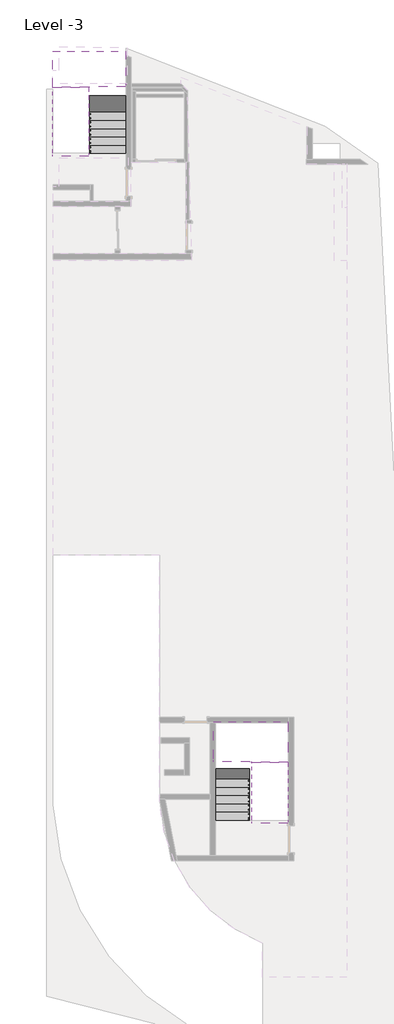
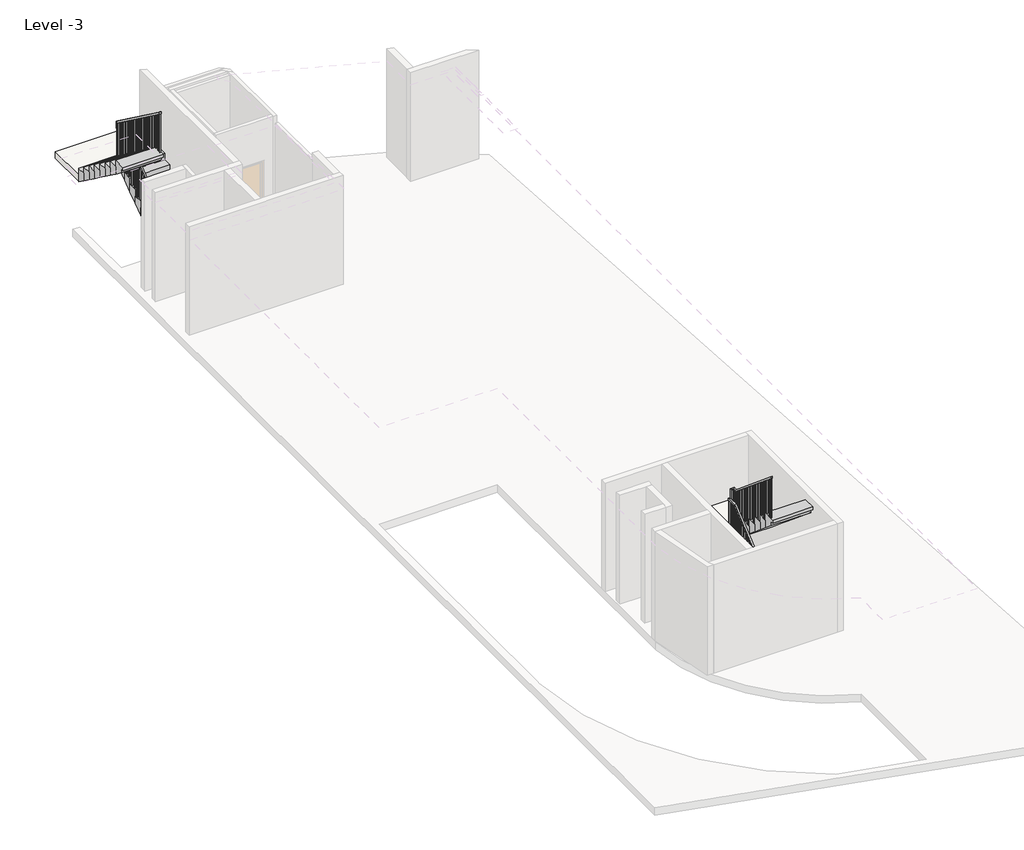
# One storey, part 2 of 2: 4 stair flights, 2 railings, 2 slabs.
"""IFC4 building model written with IfcOpenShell, lengths in millimetres."""

import ifcopenshell
import ifcopenshell.guid

model = None  # the IFC model being written
_history = None  # IfcOwnerHistory: only IFC2X3 demands one
_inside = {}  # id of a spatial element -> (the spatial element, [elements in it])
_under = {}  # id of a project, library or spatial element -> (it, [spatial elements below it])
_declared = {}  # id of a project -> (the project, [libraries it declares])
_typed = {}  # id of a type object -> (the type object, [elements of that type])
_made_of = {}  # id of a material, layer set ... -> (it, [elements and type objects made of it])


def new_model(schema):
    """Start an empty IFC model of exactly this schema.

    Asked for "IFC4X3", IfcOpenShell would pick the latest addendum, in which some entities
    have other attributes; the version numbers below select the first issue.
    IFC2X3 requires an IfcOwnerHistory on every rooted entity: one is made here for all.
    """
    global model, _history
    if schema == "IFC4X3":
        model = ifcopenshell.file(schema_version=(4, 3, 0, 0))
    else:
        model = ifcopenshell.file(schema=schema)
    _inside.clear()
    _under.clear()
    _declared.clear()
    _typed.clear()
    _made_of.clear()
    _history = None
    if model.schema == "IFC2X3":
        org = make("IfcOrganization", Name="unknown")
        user = make(
            "IfcPersonAndOrganization",
            ThePerson=make("IfcPerson", FamilyName="unknown"),
            TheOrganization=org,
        )
        app = make(
            "IfcApplication",
            ApplicationDeveloper=org,
            Version="unknown",
            ApplicationFullName="unknown",
            ApplicationIdentifier="unknown",
        )
        _history = make(
            "IfcOwnerHistory",
            OwningUser=user,
            OwningApplication=app,
            ChangeAction="ADDED",
            CreationDate=0,
        )
    return model


def make(cls, **values):
    """One entity of the class cls with the attributes given. An attribute that is None is left unset."""
    return model.create_entity(
        cls, **{name: value for name, value in values.items() if value is not None}
    )


def rooted(cls, **values):
    """An entity with a GlobalId (a new one), such as an element, a storey or a relation."""
    return make(cls, GlobalId=ifcopenshell.guid.new(), OwnerHistory=_history, **values)


def si_unit(unit_type, name, prefix=None):
    """IfcSIUnit, for example si_unit("LENGTHUNIT", "METRE", prefix="MILLI")."""
    return make("IfcSIUnit", UnitType=unit_type, Prefix=prefix, Name=name)


def assignment(units):
    """IfcUnitAssignment: the units of a project."""
    return None if units is None else make("IfcUnitAssignment", Units=units)


def point(xyz):
    """IfcCartesianPoint."""
    return None if xyz is None else make("IfcCartesianPoint", Coordinates=xyz)


def direction(xyz):
    """IfcDirection."""
    return None if xyz is None else make("IfcDirection", DirectionRatios=xyz)


def frame(location, z_axis=None, x_axis=None):
    """IfcAxis2Placement3D, a coordinate frame: its origin and axes. An axis left out is left unset."""
    return make(
        "IfcAxis2Placement3D",
        Location=point(location),
        Axis=direction(z_axis),
        RefDirection=direction(x_axis),
    )


def origin():
    """The frame at (0, 0, 0) with its axes left unset."""
    return frame((0.0, 0.0, 0.0))


def place(relative_to, where):
    """IfcLocalPlacement: puts the frame where relative to a parent placement (None: the world)."""
    return make(
        "IfcLocalPlacement", PlacementRelTo=relative_to, RelativePlacement=where
    )


def context(
    kind, dimensions, precision=None, world=None, true_north=None, identifier=None
):
    """IfcGeometricRepresentationContext, for example the 3D "Model" context."""
    return make(
        "IfcGeometricRepresentationContext",
        ContextIdentifier=identifier,
        ContextType=kind,
        CoordinateSpaceDimension=dimensions,
        Precision=precision,
        WorldCoordinateSystem=world,
        TrueNorth=true_north,
    )


def project(units=None, contexts=None):
    """IfcProject with its units and contexts."""
    return rooted(
        "IfcProject",
        Name="project",
        RepresentationContexts=contexts,
        UnitsInContext=assignment(units),
    )


def spatial(cls, under=None, at=None, **own):
    """A site, building, storey or space (cls), placed at a placement, below another one or the project."""
    s = rooted(cls, ObjectPlacement=at, **own)
    if under is not None:
        _under.setdefault(under.id(), (under, []))[1].append(s)
    return s


def polyline(points):
    """IfcPolyline through the points."""
    return make("IfcPolyline", Points=[point(p) for p in points])


def outline(outer, holes=None, kind="AREA"):
    """IfcArbitraryClosedProfileDef: a profile drawn as a closed curve; with holes, ...WithVoids."""
    if holes is None:
        return make("IfcArbitraryClosedProfileDef", ProfileType=kind, OuterCurve=outer)
    return make(
        "IfcArbitraryProfileDefWithVoids",
        ProfileType=kind,
        OuterCurve=outer,
        InnerCurves=holes,
    )


def extrude(swept, where, along, depth):
    """IfcExtrudedAreaSolid: the profile swept, set in the frame where, extruded along a direction by depth."""
    return make(
        "IfcExtrudedAreaSolid",
        SweptArea=swept,
        Position=where,
        ExtrudedDirection=direction(along),
        Depth=depth,
    )


def faces_of(points, faces, orient=None, outer=None):
    """IfcFace entities. A face is a list of loops; a loop is a list of indices into points, from 0.

    orient and outer hold one flag for each loop. By default every Orientation is true, the
    first loop of a face is its IfcFaceOuterBound and the others are IfcFaceBound.
    """
    made = []
    for i, loops in enumerate(faces):
        bounds = []
        for j, loop in enumerate(loops):
            is_outer = j == 0 if outer is None else outer[i][j]
            bounds.append(
                make(
                    "IfcFaceOuterBound" if is_outer else "IfcFaceBound",
                    Bound=make("IfcPolyLoop", Polygon=[points[k] for k in loop]),
                    Orientation=True if orient is None else orient[i][j],
                )
            )
        made.append(make("IfcFace", Bounds=bounds))
    return made


def faceted_brep(points, faces, orient=None, outer=None, voids=None):
    """IfcFacetedBrep: a solid bounded by flat faces; with voids (closed shells), ...WithVoids."""
    shared = [point(p) for p in points]
    hull = make("IfcClosedShell", CfsFaces=faces_of(shared, faces, orient, outer))
    if voids is None:
        return make("IfcFacetedBrep", Outer=hull)
    return make(
        "IfcFacetedBrepWithVoids",
        Outer=hull,
        Voids=[
            make(cls, CfsFaces=faces_of(shared, fs, o, b)) for cls, fs, o, b in voids
        ],
    )


def shape(context_of_items, identifier, shape_type, items):
    """IfcShapeRepresentation: the items that make up one representation, for example the "Body"."""
    return make(
        "IfcShapeRepresentation",
        ContextOfItems=context_of_items,
        RepresentationIdentifier=identifier,
        RepresentationType=shape_type,
        Items=items,
    )


def made_of(thing, what):
    """Note that an element or type object is made of a material, layer set ...; save() writes the relation."""
    if what is not None:
        _made_of.setdefault(what.id(), (what, []))[1].append(thing)
    return thing


def element(
    cls,
    number,
    at=None,
    inside=None,
    cuts=None,
    type_object=None,
    material=None,
    context=None,
    identifier="Body",
    shape_type=None,
    held_by="IfcProductDefinitionShape",
    body=None,
    shapes=None,
    **own,
):
    """One element of the class cls, such as IfcWall. Its Tag is "e" and its number.

    at: its placement. inside: the storey or other place that contains it. cuts: it is an
    opening in that element (IfcRelVoidsElement). A single representation is given by context,
    identifier, shape_type and body (its items); several are given by shapes. held_by: the class
    of the entity that holds the representations. save() writes the other relations.
    """
    e = rooted(cls, Tag="e%d" % number, ObjectPlacement=at, **own)
    if body is not None:
        shapes = [shape(context, identifier, shape_type, body)]
    if shapes is not None:
        e.Representation = make(held_by, Representations=shapes)
    if inside is not None:
        _inside.setdefault(inside.id(), (inside, []))[1].append(e)
    if cuts is not None:
        rooted(
            "IfcRelVoidsElement", RelatingBuildingElement=cuts, RelatedOpeningElement=e
        )
    if type_object is not None:
        _typed.setdefault(type_object.id(), (type_object, []))[1].append(e)
    return made_of(e, material)


def aggregate(whole, parts):
    """IfcRelAggregates: a whole, such as a stair, and the parts it consists of."""
    return rooted("IfcRelAggregates", RelatingObject=whole, RelatedObjects=parts)


def save(model, path):
    """Write the relations noted so far, then the file.

    IfcRelAggregates (storeys below a building ...), IfcRelContainedInSpatialStructure (elements
    in a storey), IfcRelDefinesByType, IfcRelAssociatesMaterial and IfcRelDeclares: one each for
    every whole, place, type object, material and project.
    """
    for whole, parts in _under.values():
        aggregate(whole, parts)
    for where, things in _inside.values():
        rooted(
            "IfcRelContainedInSpatialStructure",
            RelatedElements=things,
            RelatingStructure=where,
        )
    for kind, things in _typed.values():
        rooted("IfcRelDefinesByType", RelatedObjects=things, RelatingType=kind)
    for what, things in _made_of.values():
        rooted("IfcRelAssociatesMaterial", RelatedObjects=things, RelatingMaterial=what)
    for by, libraries in _declared.values():
        rooted("IfcRelDeclares", RelatingContext=by, RelatedDefinitions=libraries)
    model.write(path)


model = new_model("IFC4")

# Units and contexts
model_context = context("Model", 3, world=origin())
ifc_project = project(units=[si_unit("LENGTHUNIT", "METRE", prefix="MILLI")], contexts=[model_context])

# Site, building, storey
site = spatial("IfcSite", under=ifc_project)
building = spatial("IfcBuilding", under=site)
storey = spatial("IfcBuildingStorey", under=building, Name="Level -3", Elevation=-10500.0)

# Railings
placement = place(None, origin())
element("IfcRailing", 1, ObjectType="1100mm", at=placement, inside=storey, context=model_context, shape_type="SolidModel", body=[
    faceted_brep([(1179.9765888, 10328.8506586, -9194.1176471), (1179.9765888, 10328.8506586, -9256.1792584), (1229.9765888, 10328.8506586, -9256.1792584), (1229.9765888, 10328.8506586, -9194.1176471), (1179.9765888, 12288.8506586, -7752.9411765), (1179.9765888, 12305.25445, -7802.9411765), (1229.9765888, 12305.25445, -7802.9411765), (1229.9765888, 12288.8506586, -7752.9411765), (1179.9765888, 12569.2506586, -7752.9411765), (1179.9765888, 12569.2506586, -7802.9411765), (1229.9765888, 12619.2506586, -7802.9411765), (1229.9765888, 12619.2506586, -7752.9411765), (1159.5709975, 12569.2506586, -7752.9411765), (1159.5709975, 12619.2506586, -7752.9411765), (1109.5709975, 12619.2506586, -7802.9411765), (1109.5709975, 12569.2506586, -7802.9411765)], [[[0, 1, 2, 3]], [[1, 0, 4, 5]], [[2, 1, 5, 6]], [[3, 2, 6, 7]], [[0, 3, 7, 4]], [[5, 4, 8, 9]], [[6, 5, 9, 10]], [[7, 6, 10, 11]], [[4, 7, 11, 8]], [[12, 13, 14, 15]], [[9, 8, 12, 15]], [[10, 9, 15, 14]], [[11, 10, 14, 13]], [[8, 11, 13, 12]]]),
    faceted_brep([(1159.5709975, 12569.2506586, -7752.9411765), (1109.5709975, 12569.2506586, -7802.9411765), (1109.5709975, 12619.2506586, -7802.9411765), (1159.5709975, 12619.2506586, -7752.9411765), (1159.5709975, 12569.2506586, -7609.4145525), (1159.5709975, 12619.2506586, -7584.1176471), (1109.5709975, 12619.2506586, -7584.1176471), (1109.5709975, 12569.2506586, -7609.4145525)], [[[0, 1, 2, 3]], [[4, 5, 6, 7]], [[1, 0, 4, 7]], [[2, 1, 7, 6]], [[3, 2, 6, 5]], [[0, 3, 5, 4]]]),
    faceted_brep([(1159.5709975, 12619.2506586, -7584.1176471), (1159.5709975, 12569.2506586, -7609.4145525), (1109.5709975, 12569.2506586, -7609.4145525), (1109.5709975, 12619.2506586, -7584.1176471), (1159.5709975, 10328.8506586, -5900.0), (1109.5709975, 10328.8506586, -5900.0), (1109.5709975, 10328.8506586, -5962.0616113), (1159.5709975, 10328.8506586, -5962.0616113)], [[[0, 1, 2, 3]], [[4, 5, 6, 7]], [[1, 0, 4, 7]], [[2, 1, 7, 6]], [[3, 2, 6, 5]], [[0, 3, 5, 4]]]),
    extrude(outline(polyline([(10436.7506586, -7205.8823529), (10411.7506586, -7205.8823529), (10411.7506586, -6023.0174937), (10436.7506586, -6041.3998466), (10436.7506586, -7205.8823529)])), frame((1122.0709975, 0.0, 0.0), z_axis=(1.0, 0.0, 0.0), x_axis=(0.0, 1.0, 0.0)), (0.0, 0.0, 1.0), 25.0),
    extrude(outline(polyline([(10576.7506586, -7205.8823529), (10551.7506586, -7205.8823529), (10551.7506586, -6125.9586701), (10576.7506586, -6144.3410231), (10576.7506586, -7205.8823529)])), frame((1122.0709975, 0.0, 0.0), z_axis=(1.0, 0.0, 0.0), x_axis=(0.0, 1.0, 0.0)), (0.0, 0.0, 1.0), 25.0),
    extrude(outline(polyline([(10716.7506586, -7411.7647059), (10691.7506586, -7411.7647059), (10691.7506586, -6228.8998466), (10716.7506586, -6247.2821995), (10716.7506586, -7411.7647059)])), frame((1122.0709975, 0.0, 0.0), z_axis=(1.0, 0.0, 0.0), x_axis=(0.0, 1.0, 0.0)), (0.0, 0.0, 1.0), 25.0),
    extrude(outline(polyline([(10856.7506586, -7411.7647059), (10831.7506586, -7411.7647059), (10831.7506586, -6331.8410231), (10856.7506586, -6350.223376), (10856.7506586, -7411.7647059)])), frame((1122.0709975, 0.0, 0.0), z_axis=(1.0, 0.0, 0.0), x_axis=(0.0, 1.0, 0.0)), (0.0, 0.0, 1.0), 25.0),
    extrude(outline(polyline([(10996.7506586, -7617.6470588), (10971.7506586, -7617.6470588), (10971.7506586, -6434.7821995), (10996.7506586, -6453.1645525), (10996.7506586, -7617.6470588)])), frame((1122.0709975, 0.0, 0.0), z_axis=(1.0, 0.0, 0.0), x_axis=(0.0, 1.0, 0.0)), (0.0, 0.0, 1.0), 25.0),
    extrude(outline(polyline([(11136.7506586, -7617.6470588), (11111.7506586, -7617.6470588), (11111.7506586, -6537.723376), (11136.7506586, -6556.105729), (11136.7506586, -7617.6470588)])), frame((1122.0709975, 0.0, 0.0), z_axis=(1.0, 0.0, 0.0), x_axis=(0.0, 1.0, 0.0)), (0.0, 0.0, 1.0), 25.0),
    extrude(outline(polyline([(11276.7506586, -7823.5294118), (11251.7506586, -7823.5294118), (11251.7506586, -6640.6645525), (11276.7506586, -6659.0469054), (11276.7506586, -7823.5294118)])), frame((1122.0709975, 0.0, 0.0), z_axis=(1.0, 0.0, 0.0), x_axis=(0.0, 1.0, 0.0)), (0.0, 0.0, 1.0), 25.0),
    extrude(outline(polyline([(11416.7506586, -7823.5294118), (11391.7506586, -7823.5294118), (11391.7506586, -6743.605729), (11416.7506586, -6761.9880819), (11416.7506586, -7823.5294118)])), frame((1122.0709975, 0.0, 0.0), z_axis=(1.0, 0.0, 0.0), x_axis=(0.0, 1.0, 0.0)), (0.0, 0.0, 1.0), 25.0),
    extrude(outline(polyline([(11556.7506586, -8029.4117647), (11531.7506586, -8029.4117647), (11531.7506586, -6846.5469054), (11556.7506586, -6864.9292584), (11556.7506586, -8029.4117647)])), frame((1122.0709975, 0.0, 0.0), z_axis=(1.0, 0.0, 0.0), x_axis=(0.0, 1.0, 0.0)), (0.0, 0.0, 1.0), 25.0),
    extrude(outline(polyline([(11696.7506586, -8029.4117647), (11671.7506586, -8029.4117647), (11671.7506586, -6949.4880819), (11696.7506586, -6967.8704348), (11696.7506586, -8029.4117647)])), frame((1122.0709975, 0.0, 0.0), z_axis=(1.0, 0.0, 0.0), x_axis=(0.0, 1.0, 0.0)), (0.0, 0.0, 1.0), 25.0),
    extrude(outline(polyline([(11836.7506586, -8235.2941176), (11811.7506586, -8235.2941176), (11811.7506586, -7052.4292584), (11836.7506586, -7070.8116113), (11836.7506586, -8235.2941176)])), frame((1122.0709975, 0.0, 0.0), z_axis=(1.0, 0.0, 0.0), x_axis=(0.0, 1.0, 0.0)), (0.0, 0.0, 1.0), 25.0),
    extrude(outline(polyline([(11976.7506586, -8235.2941176), (11951.7506586, -8235.2941176), (11951.7506586, -7155.3704348), (11976.7506586, -7173.7527878), (11976.7506586, -8235.2941176)])), frame((1122.0709975, 0.0, 0.0), z_axis=(1.0, 0.0, 0.0), x_axis=(0.0, 1.0, 0.0)), (0.0, 0.0, 1.0), 25.0),
    extrude(outline(polyline([(12116.7506586, -8441.1764706), (12091.7506586, -8441.1764706), (12091.7506586, -7258.3116113), (12116.7506586, -7276.6939643), (12116.7506586, -8441.1764706)])), frame((1122.0709975, 0.0, 0.0), z_axis=(1.0, 0.0, 0.0), x_axis=(0.0, 1.0, 0.0)), (0.0, 0.0, 1.0), 25.0),
    extrude(outline(polyline([(12256.7506586, -8441.1764706), (12231.7506586, -8441.1764706), (12231.7506586, -7361.2527878), (12256.7506586, -7379.6351407), (12256.7506586, -8441.1764706)])), frame((1122.0709975, 0.0, 0.0), z_axis=(1.0, 0.0, 0.0), x_axis=(0.0, 1.0, 0.0)), (0.0, 0.0, 1.0), 25.0),
    extrude(outline(polyline([(12396.7506586, -8647.0588235), (12371.7506586, -8647.0588235), (12371.7506586, -7464.1939643), (12396.7506586, -7482.5763172), (12396.7506586, -8647.0588235)])), frame((1122.0709975, 0.0, 0.0), z_axis=(1.0, 0.0, 0.0), x_axis=(0.0, 1.0, 0.0)), (0.0, 0.0, 1.0), 25.0),
    extrude(outline(polyline([(12536.7506586, -8647.0588235), (12511.7506586, -8647.0588235), (12511.7506586, -7567.1351407), (12536.7506586, -7585.5174937), (12536.7506586, -8647.0588235)])), frame((1122.0709975, 0.0, 0.0), z_axis=(1.0, 0.0, 0.0), x_axis=(0.0, 1.0, 0.0)), (0.0, 0.0, 1.0), 25.0),
    extrude(outline(polyline([(1147.4765888, 12581.7506586), (1122.4765888, 12581.7506586), (1122.4765888, 12606.7506586), (1147.4765888, 12606.7506586), (1147.4765888, 12581.7506586)])), frame((0.0, 0.0, -8852.9411765), z_axis=(0.0, 0.0, 1.0), x_axis=(1.0, 0.0, 0.0)), (0.0, 0.0, 1.0), 1050.0),
    extrude(outline(polyline([(1192.4765888, 12486.3506586), (1192.4765888, 12511.3506586), (1217.4765888, 12511.3506586), (1217.4765888, 12486.3506586), (1192.4765888, 12486.3506586)])), frame((0.0, 0.0, -8852.9411765), z_axis=(0.0, 0.0, 1.0), x_axis=(1.0, 0.0, 0.0)), (0.0, 0.0, 1.0), 1050.0),
    extrude(outline(polyline([(1192.4765888, 12346.3506586), (1192.4765888, 12371.3506586), (1217.4765888, 12371.3506586), (1217.4765888, 12346.3506586), (1192.4765888, 12346.3506586)])), frame((0.0, 0.0, -8852.9411765), z_axis=(0.0, 0.0, 1.0), x_axis=(1.0, 0.0, 0.0)), (0.0, 0.0, 1.0), 1050.0),
    extrude(outline(polyline([(12206.3506586, -7875.6645525), (12231.3506586, -7857.2821995), (12231.3506586, -9058.8235294), (12206.3506586, -9058.8235294), (12206.3506586, -7875.6645525)])), frame((1192.4765888, 0.0, 0.0), z_axis=(1.0, 0.0, 0.0), x_axis=(0.0, 1.0, 0.0)), (0.0, 0.0, 1.0), 25.0),
    extrude(outline(polyline([(12066.3506586, -7978.605729), (12091.3506586, -7960.223376), (12091.3506586, -9058.8235294), (12066.3506586, -9058.8235294), (12066.3506586, -7978.605729)])), frame((1192.4765888, 0.0, 0.0), z_axis=(1.0, 0.0, 0.0), x_axis=(0.0, 1.0, 0.0)), (0.0, 0.0, 1.0), 25.0),
    extrude(outline(polyline([(11926.3506586, -8081.5469054), (11951.3506586, -8063.1645525), (11951.3506586, -9264.7058824), (11926.3506586, -9264.7058824), (11926.3506586, -8081.5469054)])), frame((1192.4765888, 0.0, 0.0), z_axis=(1.0, 0.0, 0.0), x_axis=(0.0, 1.0, 0.0)), (0.0, 0.0, 1.0), 25.0),
    extrude(outline(polyline([(11786.3506586, -8184.4880819), (11811.3506586, -8166.105729), (11811.3506586, -9264.7058824), (11786.3506586, -9264.7058824), (11786.3506586, -8184.4880819)])), frame((1192.4765888, 0.0, 0.0), z_axis=(1.0, 0.0, 0.0), x_axis=(0.0, 1.0, 0.0)), (0.0, 0.0, 1.0), 25.0),
    extrude(outline(polyline([(11646.3506586, -8287.4292584), (11671.3506586, -8269.0469054), (11671.3506586, -9470.5882353), (11646.3506586, -9470.5882353), (11646.3506586, -8287.4292584)])), frame((1192.4765888, 0.0, 0.0), z_axis=(1.0, 0.0, 0.0), x_axis=(0.0, 1.0, 0.0)), (0.0, 0.0, 1.0), 25.0),
    extrude(outline(polyline([(11506.3506586, -8390.3704348), (11531.3506586, -8371.9880819), (11531.3506586, -9470.5882353), (11506.3506586, -9470.5882353), (11506.3506586, -8390.3704348)])), frame((1192.4765888, 0.0, 0.0), z_axis=(1.0, 0.0, 0.0), x_axis=(0.0, 1.0, 0.0)), (0.0, 0.0, 1.0), 25.0),
    extrude(outline(polyline([(11366.3506586, -8493.3116113), (11391.3506586, -8474.9292584), (11391.3506586, -9676.4705882), (11366.3506586, -9676.4705882), (11366.3506586, -8493.3116113)])), frame((1192.4765888, 0.0, 0.0), z_axis=(1.0, 0.0, 0.0), x_axis=(0.0, 1.0, 0.0)), (0.0, 0.0, 1.0), 25.0),
    extrude(outline(polyline([(11226.3506586, -8596.2527878), (11251.3506586, -8577.8704348), (11251.3506586, -9676.4705882), (11226.3506586, -9676.4705882), (11226.3506586, -8596.2527878)])), frame((1192.4765888, 0.0, 0.0), z_axis=(1.0, 0.0, 0.0), x_axis=(0.0, 1.0, 0.0)), (0.0, 0.0, 1.0), 25.0),
    extrude(outline(polyline([(11086.3506586, -8699.1939643), (11111.3506586, -8680.8116113), (11111.3506586, -9882.3529412), (11086.3506586, -9882.3529412), (11086.3506586, -8699.1939643)])), frame((1192.4765888, 0.0, 0.0), z_axis=(1.0, 0.0, 0.0), x_axis=(0.0, 1.0, 0.0)), (0.0, 0.0, 1.0), 25.0),
    extrude(outline(polyline([(10946.3506586, -8802.1351407), (10971.3506586, -8783.7527878), (10971.3506586, -9882.3529412), (10946.3506586, -9882.3529412), (10946.3506586, -8802.1351407)])), frame((1192.4765888, 0.0, 0.0), z_axis=(1.0, 0.0, 0.0), x_axis=(0.0, 1.0, 0.0)), (0.0, 0.0, 1.0), 25.0),
    extrude(outline(polyline([(10806.3506586, -8905.0763172), (10831.3506586, -8886.6939643), (10831.3506586, -10088.2352941), (10806.3506586, -10088.2352941), (10806.3506586, -8905.0763172)])), frame((1192.4765888, 0.0, 0.0), z_axis=(1.0, 0.0, 0.0), x_axis=(0.0, 1.0, 0.0)), (0.0, 0.0, 1.0), 25.0),
    extrude(outline(polyline([(10666.3506586, -9008.0174937), (10691.3506586, -8989.6351407), (10691.3506586, -10088.2352941), (10666.3506586, -10088.2352941), (10666.3506586, -9008.0174937)])), frame((1192.4765888, 0.0, 0.0), z_axis=(1.0, 0.0, 0.0), x_axis=(0.0, 1.0, 0.0)), (0.0, 0.0, 1.0), 25.0),
    extrude(outline(polyline([(10526.3506586, -9110.9586701), (10551.3506586, -9092.5763172), (10551.3506586, -10294.1176471), (10526.3506586, -10294.1176471), (10526.3506586, -9110.9586701)])), frame((1192.4765888, 0.0, 0.0), z_axis=(1.0, 0.0, 0.0), x_axis=(0.0, 1.0, 0.0)), (0.0, 0.0, 1.0), 25.0),
    extrude(outline(polyline([(10386.3506586, -9213.8998466), (10411.3506586, -9195.5174937), (10411.3506586, -10294.1176471), (10386.3506586, -10294.1176471), (10386.3506586, -9213.8998466)])), frame((1192.4765888, 0.0, 0.0), z_axis=(1.0, 0.0, 0.0), x_axis=(0.0, 1.0, 0.0)), (0.0, 0.0, 1.0), 25.0),
    extrude(outline(polyline([(1147.0709975, 12606.7506586), (1147.0709975, 12581.7506586), (1122.0709975, 12581.7506586), (1122.0709975, 12606.7506586), (1147.0709975, 12606.7506586)])), frame((0.0, 0.0, -8852.9411765), z_axis=(0.0, 0.0, 1.0), x_axis=(1.0, 0.0, 0.0)), (0.0, 0.0, 1.0), 1050.0),
    extrude(outline(polyline([(1192.4765888, 12581.7506586), (1192.4765888, 12606.7506586), (1217.4765888, 12606.7506586), (1217.4765888, 12581.7506586), (1192.4765888, 12581.7506586)])), frame((0.0, 0.0, -8852.9411765), z_axis=(0.0, 0.0, 1.0), x_axis=(1.0, 0.0, 0.0)), (0.0, 0.0, 1.0), 1050.0),
    extrude(outline(polyline([(12276.3506586, -7824.1939643), (12301.3506586, -7805.8116113), (12301.3506586, -8852.9411765), (12276.3506586, -8852.9411765), (12276.3506586, -7824.1939643)])), frame((1192.4765888, 0.0, 0.0), z_axis=(1.0, 0.0, 0.0), x_axis=(0.0, 1.0, 0.0)), (0.0, 0.0, 1.0), 25.0),
    extrude(outline(polyline([(10353.8506586, -7205.8823529), (10328.8506586, -7205.8823529), (10328.8506586, -5962.0616113), (10353.8506586, -5980.4439643), (10353.8506586, -7205.8823529)])), frame((1122.0709975, 0.0, 0.0), z_axis=(1.0, 0.0, 0.0), x_axis=(0.0, 1.0, 0.0)), (0.0, 0.0, 1.0), 25.0),
    extrude(outline(polyline([(10328.8506586, -9256.1792584), (10353.8506586, -9237.7969054), (10353.8506586, -10294.1176471), (10328.8506586, -10294.1176471), (10328.8506586, -9256.1792584)])), frame((1192.4765888, 0.0, 0.0), z_axis=(1.0, 0.0, 0.0), x_axis=(0.0, 1.0, 0.0)), (0.0, 0.0, 1.0), 25.0),
])
element("IfcRailing", 2, ObjectType="1100mm", at=placement, inside=storey, context=model_context, shape_type="SolidModel", body=[
    faceted_brep([(6559.5709976, -12235.6929429, -9166.6666667), (6559.5709976, -12235.6929429, -9231.7520806), (6609.5709976, -12235.6929429, -9231.7520806), (6609.5709976, -12235.6929429, -9166.6666667), (6559.5709976, -10555.6929429, -7766.6666667), (6559.5709976, -10537.5904462, -7816.6666667), (6609.5709976, -10537.5904462, -7816.6666667), (6609.5709976, -10555.6929429, -7766.6666667), (6559.5709976, -10225.2929429, -7766.6666667), (6559.5709976, -10225.2929429, -7816.6666667), (6609.5709976, -10275.2929429, -7816.6666667), (6609.5709976, -10275.2929429, -7766.6666667), (6615.3709976, -10225.2929429, -7766.6666667), (6665.3709976, -10225.2929429, -7816.6666667), (6665.3709976, -10275.2929429, -7816.6666667), (6615.3709976, -10275.2929429, -7766.6666667), (6615.3709976, -10225.2929429, -7471.1666667), (6665.3709976, -10225.2929429, -7521.1666667), (6665.3709976, -10275.2929429, -7521.1666667), (6615.3709976, -10275.2929429, -7471.1666667), (6740.3709976, -10225.2929429, -7471.1666667), (6740.3709976, -10225.2929429, -7521.1666667), (6690.3709976, -10275.2929429, -7521.1666667), (6690.3709976, -10275.2929429, -7471.1666667), (6740.3709976, -10350.2929429, -7471.1666667), (6740.3709976, -10368.3954397, -7521.1666667), (6690.3709976, -10368.3954397, -7521.1666667), (6690.3709976, -10350.2929429, -7471.1666667), (6740.3709976, -12235.6929429, -5900.0), (6690.3709976, -12235.6929429, -5900.0), (6690.3709976, -12235.6929429, -5965.085414), (6740.3709976, -12235.6929429, -5965.085414)], [[[0, 1, 2, 3]], [[1, 0, 4, 5]], [[2, 1, 5, 6]], [[3, 2, 6, 7]], [[0, 3, 7, 4]], [[5, 4, 8, 9]], [[6, 5, 9, 10]], [[7, 6, 10, 11]], [[4, 7, 11, 8]], [[9, 8, 12, 13]], [[10, 9, 13, 14]], [[11, 10, 14, 15]], [[8, 11, 15, 12]], [[13, 12, 16, 17]], [[14, 13, 17, 18]], [[15, 14, 18, 19]], [[12, 15, 19, 16]], [[17, 16, 20, 21]], [[18, 17, 21, 22]], [[19, 18, 22, 23]], [[16, 19, 23, 20]], [[21, 20, 24, 25]], [[22, 21, 25, 26]], [[23, 22, 26, 27]], [[20, 23, 27, 24]], [[28, 29, 30, 31]], [[25, 24, 28, 31]], [[26, 25, 31, 30]], [[27, 26, 30, 29]], [[24, 27, 29, 28]]]),
    extrude(outline(polyline([(-12127.7929429, -6055.0020806), (-12127.7929429, -7233.3333333), (-12152.7929429, -7233.3333333), (-12152.7929429, -6034.1687473), (-12127.7929429, -6055.0020806)])), frame((6702.8709976, 0.0, 0.0), z_axis=(1.0, 0.0, 0.0), x_axis=(0.0, 1.0, 0.0)), (0.0, 0.0, 1.0), 25.0),
    extrude(outline(polyline([(-11987.7929429, -6171.6687473), (-11987.7929429, -7233.3333333), (-12012.7929429, -7233.3333333), (-12012.7929429, -6150.835414), (-11987.7929429, -6171.6687473)])), frame((6702.8709976, 0.0, 0.0), z_axis=(1.0, 0.0, 0.0), x_axis=(0.0, 1.0, 0.0)), (0.0, 0.0, 1.0), 25.0),
    extrude(outline(polyline([(-11847.7929429, -6288.335414), (-11847.7929429, -7466.6666667), (-11872.7929429, -7466.6666667), (-11872.7929429, -6267.5020806), (-11847.7929429, -6288.335414)])), frame((6702.8709976, 0.0, 0.0), z_axis=(1.0, 0.0, 0.0), x_axis=(0.0, 1.0, 0.0)), (0.0, 0.0, 1.0), 25.0),
    extrude(outline(polyline([(-11707.7929429, -6405.0020806), (-11707.7929429, -7466.6666667), (-11732.7929429, -7466.6666667), (-11732.7929429, -6384.1687473), (-11707.7929429, -6405.0020806)])), frame((6702.8709976, 0.0, 0.0), z_axis=(1.0, 0.0, 0.0), x_axis=(0.0, 1.0, 0.0)), (0.0, 0.0, 1.0), 25.0),
    extrude(outline(polyline([(-11567.7929429, -6521.6687473), (-11567.7929429, -7700.0), (-11592.7929429, -7700.0), (-11592.7929429, -6500.835414), (-11567.7929429, -6521.6687473)])), frame((6702.8709976, 0.0, 0.0), z_axis=(1.0, 0.0, 0.0), x_axis=(0.0, 1.0, 0.0)), (0.0, 0.0, 1.0), 25.0),
    extrude(outline(polyline([(-11427.7929429, -6638.335414), (-11427.7929429, -7700.0), (-11452.7929429, -7700.0), (-11452.7929429, -6617.5020806), (-11427.7929429, -6638.335414)])), frame((6702.8709976, 0.0, 0.0), z_axis=(1.0, 0.0, 0.0), x_axis=(0.0, 1.0, 0.0)), (0.0, 0.0, 1.0), 25.0),
    extrude(outline(polyline([(-11287.7929429, -6755.0020806), (-11287.7929429, -7933.3333333), (-11312.7929429, -7933.3333333), (-11312.7929429, -6734.1687473), (-11287.7929429, -6755.0020806)])), frame((6702.8709976, 0.0, 0.0), z_axis=(1.0, 0.0, 0.0), x_axis=(0.0, 1.0, 0.0)), (0.0, 0.0, 1.0), 25.0),
    extrude(outline(polyline([(-11147.7929429, -6871.6687473), (-11147.7929429, -7933.3333333), (-11172.7929429, -7933.3333333), (-11172.7929429, -6850.835414), (-11147.7929429, -6871.6687473)])), frame((6702.8709976, 0.0, 0.0), z_axis=(1.0, 0.0, 0.0), x_axis=(0.0, 1.0, 0.0)), (0.0, 0.0, 1.0), 25.0),
    extrude(outline(polyline([(-11007.7929429, -6988.335414), (-11007.7929429, -8166.6666667), (-11032.7929429, -8166.6666667), (-11032.7929429, -6967.5020806), (-11007.7929429, -6988.335414)])), frame((6702.8709976, 0.0, 0.0), z_axis=(1.0, 0.0, 0.0), x_axis=(0.0, 1.0, 0.0)), (0.0, 0.0, 1.0), 25.0),
    extrude(outline(polyline([(-10867.7929429, -7105.0020806), (-10867.7929429, -8166.6666667), (-10892.7929429, -8166.6666667), (-10892.7929429, -7084.1687473), (-10867.7929429, -7105.0020806)])), frame((6702.8709976, 0.0, 0.0), z_axis=(1.0, 0.0, 0.0), x_axis=(0.0, 1.0, 0.0)), (0.0, 0.0, 1.0), 25.0),
    extrude(outline(polyline([(-10727.7929429, -7221.6687473), (-10727.7929429, -8400.0), (-10752.7929429, -8400.0), (-10752.7929429, -7200.835414), (-10727.7929429, -7221.6687473)])), frame((6702.8709976, 0.0, 0.0), z_axis=(1.0, 0.0, 0.0), x_axis=(0.0, 1.0, 0.0)), (0.0, 0.0, 1.0), 25.0),
    extrude(outline(polyline([(-10587.7929429, -7338.335414), (-10587.7929429, -8400.0), (-10612.7929429, -8400.0), (-10612.7929429, -7317.5020806), (-10587.7929429, -7338.335414)])), frame((6702.8709976, 0.0, 0.0), z_axis=(1.0, 0.0, 0.0), x_axis=(0.0, 1.0, 0.0)), (0.0, 0.0, 1.0), 25.0),
    extrude(outline(polyline([(-10447.7929429, -7455.0020806), (-10447.7929429, -8633.3333333), (-10472.7929429, -8633.3333333), (-10472.7929429, -7434.1687473), (-10447.7929429, -7455.0020806)])), frame((6702.8709976, 0.0, 0.0), z_axis=(1.0, 0.0, 0.0), x_axis=(0.0, 1.0, 0.0)), (0.0, 0.0, 1.0), 25.0),
    extrude(outline(polyline([(6702.8709976, -10307.7929429), (6727.8709976, -10307.7929429), (6727.8709976, -10332.7929429), (6702.8709976, -10332.7929429), (6702.8709976, -10307.7929429)])), frame((0.0, 0.0, -8633.3333333), z_axis=(0.0, 0.0, 1.0), x_axis=(1.0, 0.0, 0.0)), (0.0, 0.0, 1.0), 1112.1666667),
    extrude(outline(polyline([(6642.0709976, -10262.7929429), (6642.0709976, -10237.7929429), (6667.0709976, -10237.7929429), (6667.0709976, -10262.7929429), (6642.0709976, -10262.7929429)])), frame((0.0, 0.0, -8866.6666667), z_axis=(0.0, 0.0, 1.0), x_axis=(1.0, 0.0, 0.0)), (0.0, 0.0, 1.0), 1050.0),
    extrude(outline(polyline([(6597.0709976, -10358.1929429), (6572.0709976, -10358.1929429), (6572.0709976, -10333.1929429), (6597.0709976, -10333.1929429), (6597.0709976, -10358.1929429)])), frame((0.0, 0.0, -8866.6666667), z_axis=(0.0, 0.0, 1.0), x_axis=(1.0, 0.0, 0.0)), (0.0, 0.0, 1.0), 1050.0),
    extrude(outline(polyline([(6597.0709976, -10498.1929429), (6572.0709976, -10498.1929429), (6572.0709976, -10473.1929429), (6597.0709976, -10473.1929429), (6597.0709976, -10498.1929429)])), frame((0.0, 0.0, -8866.6666667), z_axis=(0.0, 0.0, 1.0), x_axis=(1.0, 0.0, 0.0)), (0.0, 0.0, 1.0), 1050.0),
    extrude(outline(polyline([(-10638.1929429, -9100.0), (-10638.1929429, -7900.5020806), (-10613.1929429, -7879.6687473), (-10613.1929429, -9100.0), (-10638.1929429, -9100.0)])), frame((6572.0709976, 0.0, 0.0), z_axis=(1.0, 0.0, 0.0), x_axis=(0.0, 1.0, 0.0)), (0.0, 0.0, 1.0), 25.0),
    extrude(outline(polyline([(-10778.1929429, -9100.0), (-10778.1929429, -8017.1687473), (-10753.1929429, -7996.335414), (-10753.1929429, -9100.0), (-10778.1929429, -9100.0)])), frame((6572.0709976, 0.0, 0.0), z_axis=(1.0, 0.0, 0.0), x_axis=(0.0, 1.0, 0.0)), (0.0, 0.0, 1.0), 25.0),
    extrude(outline(polyline([(-10918.1929429, -9333.3333333), (-10918.1929429, -8133.835414), (-10893.1929429, -8113.0020806), (-10893.1929429, -9333.3333333), (-10918.1929429, -9333.3333333)])), frame((6572.0709976, 0.0, 0.0), z_axis=(1.0, 0.0, 0.0), x_axis=(0.0, 1.0, 0.0)), (0.0, 0.0, 1.0), 25.0),
    extrude(outline(polyline([(-11058.1929429, -9333.3333333), (-11058.1929429, -8250.5020806), (-11033.1929429, -8229.6687473), (-11033.1929429, -9333.3333333), (-11058.1929429, -9333.3333333)])), frame((6572.0709976, 0.0, 0.0), z_axis=(1.0, 0.0, 0.0), x_axis=(0.0, 1.0, 0.0)), (0.0, 0.0, 1.0), 25.0),
    extrude(outline(polyline([(-11198.1929429, -9566.6666667), (-11198.1929429, -8367.1687473), (-11173.1929429, -8346.335414), (-11173.1929429, -9566.6666667), (-11198.1929429, -9566.6666667)])), frame((6572.0709976, 0.0, 0.0), z_axis=(1.0, 0.0, 0.0), x_axis=(0.0, 1.0, 0.0)), (0.0, 0.0, 1.0), 25.0),
    extrude(outline(polyline([(-11338.1929429, -9566.6666667), (-11338.1929429, -8483.835414), (-11313.1929429, -8463.0020806), (-11313.1929429, -9566.6666667), (-11338.1929429, -9566.6666667)])), frame((6572.0709976, 0.0, 0.0), z_axis=(1.0, 0.0, 0.0), x_axis=(0.0, 1.0, 0.0)), (0.0, 0.0, 1.0), 25.0),
    extrude(outline(polyline([(-11478.1929429, -9800.0), (-11478.1929429, -8600.5020806), (-11453.1929429, -8579.6687473), (-11453.1929429, -9800.0), (-11478.1929429, -9800.0)])), frame((6572.0709976, 0.0, 0.0), z_axis=(1.0, 0.0, 0.0), x_axis=(0.0, 1.0, 0.0)), (0.0, 0.0, 1.0), 25.0),
    extrude(outline(polyline([(-11618.1929429, -9800.0), (-11618.1929429, -8717.1687473), (-11593.1929429, -8696.335414), (-11593.1929429, -9800.0), (-11618.1929429, -9800.0)])), frame((6572.0709976, 0.0, 0.0), z_axis=(1.0, 0.0, 0.0), x_axis=(0.0, 1.0, 0.0)), (0.0, 0.0, 1.0), 25.0),
    extrude(outline(polyline([(-11758.1929429, -10033.3333333), (-11758.1929429, -8833.835414), (-11733.1929429, -8813.0020806), (-11733.1929429, -10033.3333333), (-11758.1929429, -10033.3333333)])), frame((6572.0709976, 0.0, 0.0), z_axis=(1.0, 0.0, 0.0), x_axis=(0.0, 1.0, 0.0)), (0.0, 0.0, 1.0), 25.0),
    extrude(outline(polyline([(-11898.1929429, -10033.3333333), (-11898.1929429, -8950.5020806), (-11873.1929429, -8929.6687473), (-11873.1929429, -10033.3333333), (-11898.1929429, -10033.3333333)])), frame((6572.0709976, 0.0, 0.0), z_axis=(1.0, 0.0, 0.0), x_axis=(0.0, 1.0, 0.0)), (0.0, 0.0, 1.0), 25.0),
    extrude(outline(polyline([(-12038.1929429, -10266.6666667), (-12038.1929429, -9067.1687473), (-12013.1929429, -9046.335414), (-12013.1929429, -10266.6666667), (-12038.1929429, -10266.6666667)])), frame((6572.0709976, 0.0, 0.0), z_axis=(1.0, 0.0, 0.0), x_axis=(0.0, 1.0, 0.0)), (0.0, 0.0, 1.0), 25.0),
    extrude(outline(polyline([(-12178.1929429, -10266.6666667), (-12178.1929429, -9183.835414), (-12153.1929429, -9163.0020806), (-12153.1929429, -10266.6666667), (-12178.1929429, -10266.6666667)])), frame((6572.0709976, 0.0, 0.0), z_axis=(1.0, 0.0, 0.0), x_axis=(0.0, 1.0, 0.0)), (0.0, 0.0, 1.0), 25.0),
    extrude(outline(polyline([(6702.8709976, -10237.7929429), (6727.8709976, -10237.7929429), (6727.8709976, -10262.7929429), (6702.8709976, -10262.7929429), (6702.8709976, -10237.7929429)])), frame((0.0, 0.0, -8866.6666667), z_axis=(0.0, 0.0, 1.0), x_axis=(1.0, 0.0, 0.0)), (0.0, 0.0, 1.0), 1345.5),
    extrude(outline(polyline([(6597.0709976, -10262.7929429), (6572.0709976, -10262.7929429), (6572.0709976, -10237.7929429), (6597.0709976, -10237.7929429), (6597.0709976, -10262.7929429)])), frame((0.0, 0.0, -8866.6666667), z_axis=(0.0, 0.0, 1.0), x_axis=(1.0, 0.0, 0.0)), (0.0, 0.0, 1.0), 1050.0),
    extrude(outline(polyline([(-10568.1929429, -8866.6666667), (-10568.1929429, -7842.1687473), (-10543.1929429, -7821.335414), (-10543.1929429, -8866.6666667), (-10568.1929429, -8866.6666667)])), frame((6572.0709976, 0.0, 0.0), z_axis=(1.0, 0.0, 0.0), x_axis=(0.0, 1.0, 0.0)), (0.0, 0.0, 1.0), 25.0),
    extrude(outline(polyline([(-12210.6929429, -5985.9187473), (-12210.6929429, -7233.3333333), (-12235.6929429, -7233.3333333), (-12235.6929429, -5965.085414), (-12210.6929429, -5985.9187473)])), frame((6702.8709976, 0.0, 0.0), z_axis=(1.0, 0.0, 0.0), x_axis=(0.0, 1.0, 0.0)), (0.0, 0.0, 1.0), 25.0),
    extrude(outline(polyline([(-12235.6929429, -10266.6666667), (-12235.6929429, -9231.7520806), (-12210.6929429, -9210.9187473), (-12210.6929429, -10266.6666667), (-12235.6929429, -10266.6666667)])), frame((6572.0709976, 0.0, 0.0), z_axis=(1.0, 0.0, 0.0), x_axis=(0.0, 1.0, 0.0)), (0.0, 0.0, 1.0), 25.0),
])

# Slabs
element("IfcSlab", 3, ObjectType="220mm Thickness", at=placement, inside=storey, context=model_context, shape_type="Brep", body=[
    faceted_brep([(2399.5765888, 13788.8506586, -8852.9411765), (-60.0290025, 13788.8506586, -8852.9411765), (-60.0290025, 12568.8506586, -8852.9411765), (1159.9709975, 12568.8506586, -8852.9411765), (1177.9890888, 12568.8506586, -8852.9411765), (1177.9890888, 12678.8506586, -8852.9411765), (2399.5765888, 12678.8506586, -8852.9411765), (2399.5765888, 13788.8506586, -9072.9411765), (2399.5765888, 12678.8506586, -8962.9411765), (2399.5765888, 12578.8506586, -8962.9411765), (2399.5765888, 12578.8506586, -9072.9411765), (-60.0290025, 13788.8506586, -9072.9411765), (-60.0290025, 12568.8506586, -9072.9411765), (1159.9709975, 12568.8506586, -9072.9411765), (1177.9890888, 12568.8506586, -9072.9411765), (1177.9890888, 12578.8506586, -9072.9411765), (1177.9890888, 12678.8506586, -8962.9411765), (1177.9890888, 12578.8506586, -8962.9411765)], [[[0, 1, 2, 3, 4, 5, 6]], [[7, 0, 6, 8, 9, 10]], [[1, 0, 7, 11]], [[2, 1, 11, 12]], [[3, 2, 12, 13]], [[3, 13, 14, 4]], [[11, 7, 10, 15, 14, 13, 12]], [[16, 17, 9, 8]], [[5, 16, 8, 6]], [[16, 5, 4, 14, 15, 17]], [[9, 17, 15, 10]]]),
])
element("IfcSlab", 4, ObjectType="220mm Thickness", at=placement, inside=storey, context=model_context, shape_type="Brep", body=[
    faceted_brep([(6689.9709976, -10275.6929429, -8866.6666667), (7909.9709976, -10275.6929429, -8866.6666667), (7909.9709976, -8910.0372616, -8866.6666667), (5389.9709976, -8910.0372616, -8866.6666667), (5389.9709976, -10165.6929429, -8866.6666667), (6611.5584976, -10165.6929429, -8866.6666667), (6611.5584976, -10275.6929429, -8866.6666667), (6689.9709976, -10275.6929429, -9086.6666667), (6611.5584976, -10275.6929429, -9086.6666667), (7909.9709976, -10275.6929429, -9086.6666667), (7909.9709976, -8910.0372616, -9086.6666667), (5389.9709976, -8910.0372616, -9086.6666667), (5389.9709976, -10265.6929429, -9086.6666667), (5389.9709976, -10265.6929429, -8976.6666667), (5389.9709976, -10165.6929429, -8976.6666667), (6611.5584976, -10265.6929429, -9086.6666667), (6611.5584976, -10265.6929429, -8976.6666667), (6611.5584976, -10165.6929429, -8976.6666667)], [[[0, 1, 2, 3, 4, 5, 6]], [[7, 0, 6, 8]], [[1, 0, 7, 9]], [[2, 1, 9, 10]], [[3, 2, 10, 11]], [[3, 11, 12, 13, 14, 4]], [[9, 7, 8, 15, 12, 11, 10]], [[16, 17, 14, 13]], [[5, 17, 16, 15, 8, 6]], [[17, 5, 4, 14]], [[16, 13, 12, 15]]]),
])

# Stair flights
element("IfcStairFlight", 5, ObjectType="190mm Depth", at=placement, inside=storey, context=model_context, shape_type="Brep", body=[
    faceted_brep([(1179.5765888, 10608.8506586, -10294.1176471), (1179.5765888, 10328.8506586, -10294.1176471), (2399.5765888, 10328.8506586, -10294.1176471), (2399.5765888, 10608.8506586, -10294.1176471), (1179.5765888, 10608.8506586, -10500.0), (1179.5765888, 10328.8506586, -10500.0), (2399.5765888, 10328.8506586, -10500.0), (2399.5765888, 10608.8506586, -10500.0), (1179.5765888, 10888.8506586, -10088.2352941), (1179.5765888, 10608.8506586, -10088.2352941), (2399.5765888, 10608.8506586, -10088.2352941), (2399.5765888, 10888.8506586, -10088.2352941), (1179.5765888, 10888.8506586, -10324.0694171), (1179.5765888, 10649.5850659, -10500.0), (2399.5765888, 10649.5850659, -10500.0), (2399.5765888, 10888.8506586, -10324.0694171), (1179.5765888, 11168.8506586, -9882.3529412), (1179.5765888, 10888.8506586, -9882.3529412), (2399.5765888, 10888.8506586, -9882.3529412), (2399.5765888, 11168.8506586, -9882.3529412), (1179.5765888, 11168.8506586, -10118.1870642), (2399.5765888, 11168.8506586, -10118.1870642), (1179.5765888, 11448.8506586, -9676.4705882), (1179.5765888, 11168.8506586, -9676.4705882), (2399.5765888, 11168.8506586, -9676.4705882), (2399.5765888, 11448.8506586, -9676.4705882), (1179.5765888, 11448.8506586, -9912.3047112), (2399.5765888, 11448.8506586, -9912.3047112), (1179.5765888, 11728.8506586, -9470.5882353), (1179.5765888, 11448.8506586, -9470.5882353), (2399.5765888, 11448.8506586, -9470.5882353), (2399.5765888, 11728.8506586, -9470.5882353), (1179.5765888, 11728.8506586, -9706.4223583), (2399.5765888, 11728.8506586, -9706.4223583), (1179.5765888, 12008.8506586, -9264.7058824), (1179.5765888, 11728.8506586, -9264.7058824), (2399.5765888, 11728.8506586, -9264.7058824), (2399.5765888, 12008.8506586, -9264.7058824), (1179.5765888, 12008.8506586, -9500.5400053), (2399.5765888, 12008.8506586, -9500.5400053), (1179.5765888, 12288.8506586, -9058.8235294), (1179.5765888, 12008.8506586, -9058.8235294), (2399.5765888, 12008.8506586, -9058.8235294), (2399.5765888, 12288.8506586, -9058.8235294), (1179.5765888, 12288.8506586, -9294.6576524), (2399.5765888, 12288.8506586, -9294.6576524), (1179.5765888, 12288.8506586, -8852.9411765), (2399.5765888, 12288.8506586, -8852.9411765), (2399.5765888, 12668.8506586, -8852.9411765), (1179.5765888, 12668.8506586, -8852.9411765), (1179.5765888, 12668.8506586, -8952.9411765), (1179.5765888, 12568.8506586, -8952.9411765), (1179.5765888, 12568.8506586, -9088.7752995), (2399.5765888, 12568.8506586, -9088.7752995), (2399.5765888, 12568.8506586, -8952.9411765), (2399.5765888, 12668.8506586, -8952.9411765)], [[[0, 1, 2, 3]], [[1, 0, 4, 5]], [[2, 1, 5, 6]], [[3, 2, 6, 7]], [[8, 9, 10, 11]], [[4, 0, 9, 8, 12, 13]], [[0, 3, 10, 9]], [[3, 7, 14, 15, 11, 10]], [[16, 17, 18, 19]], [[17, 16, 20, 12, 8]], [[8, 11, 18, 17]], [[19, 18, 11, 15, 21]], [[22, 23, 24, 25]], [[23, 22, 26, 20, 16]], [[16, 19, 24, 23]], [[25, 24, 19, 21, 27]], [[28, 29, 30, 31]], [[29, 28, 32, 26, 22]], [[22, 25, 30, 29]], [[31, 30, 25, 27, 33]], [[34, 35, 36, 37]], [[35, 34, 38, 32, 28]], [[28, 31, 36, 35]], [[37, 36, 31, 33, 39]], [[40, 41, 42, 43]], [[41, 40, 44, 38, 34]], [[34, 37, 42, 41]], [[43, 42, 37, 39, 45]], [[46, 47, 48, 49]], [[46, 49, 50, 51, 52, 44, 40]], [[40, 43, 47, 46]], [[48, 47, 43, 45, 53, 54, 55]], [[52, 51, 54, 53]], [[5, 4, 13, 14, 7, 6]], [[14, 13, 12, 20, 26, 32, 38, 44, 52, 53, 45, 39, 33, 27, 21, 15]], [[55, 54, 51, 50]], [[55, 50, 49, 48]]]),
])
element("IfcStairFlight", 6, ObjectType="190mm Depth", at=placement, inside=storey, context=model_context, shape_type="Brep", body=[
    faceted_brep([(1159.9709975, 12568.8506586, -8647.0588235), (-60.0290025, 12568.8506586, -8647.0588235), (-60.0290025, 12547.3162514, -8647.0588235), (-60.0290025, 12288.8506586, -8647.0588235), (1159.9709975, 12288.8506586, -8647.0588235), (1159.9709975, 12547.3162514, -8647.0588235), (1159.9709975, 12288.8506586, -8882.8929465), (1159.9709975, 12547.3162514, -9072.9411765), (1159.9709975, 12568.8506586, -9072.9411765), (-60.0290025, 12568.8506586, -9072.9411765), (-60.0290025, 12547.3162514, -9072.9411765), (-60.0290025, 12288.8506586, -8882.8929465), (1159.9709975, 12008.8506586, -8441.1764706), (1159.9709975, 12288.8506586, -8441.1764706), (-60.0290025, 12288.8506586, -8441.1764706), (-60.0290025, 12008.8506586, -8441.1764706), (1159.9709975, 12008.8506586, -8677.0105936), (-60.0290025, 12008.8506586, -8677.0105936), (1159.9709975, 11728.8506586, -8235.2941176), (1159.9709975, 12008.8506586, -8235.2941176), (-60.0290025, 12008.8506586, -8235.2941176), (-60.0290025, 11728.8506586, -8235.2941176), (1159.9709975, 11728.8506586, -8471.1282406), (-60.0290025, 11728.8506586, -8471.1282406), (1159.9709975, 11448.8506586, -8029.4117647), (1159.9709975, 11728.8506586, -8029.4117647), (-60.0290025, 11728.8506586, -8029.4117647), (-60.0290025, 11448.8506586, -8029.4117647), (1159.9709975, 11448.8506586, -8265.2458877), (-60.0290025, 11448.8506586, -8265.2458877), (1159.9709975, 11168.8506586, -7823.5294118), (1159.9709975, 11448.8506586, -7823.5294118), (-60.0290025, 11448.8506586, -7823.5294118), (-60.0290025, 11168.8506586, -7823.5294118), (1159.9709975, 11168.8506586, -8059.3635347), (-60.0290025, 11168.8506586, -8059.3635347), (1159.9709975, 10888.8506586, -7617.6470588), (1159.9709975, 11168.8506586, -7617.6470588), (-60.0290025, 11168.8506586, -7617.6470588), (-60.0290025, 10888.8506586, -7617.6470588), (1159.9709975, 10888.8506586, -7853.4811818), (-60.0290025, 10888.8506586, -7853.4811818), (1159.9709975, 10608.8506586, -7411.7647059), (1159.9709975, 10888.8506586, -7411.7647059), (-60.0290025, 10888.8506586, -7411.7647059), (-60.0290025, 10608.8506586, -7411.7647059), (1159.9709975, 10608.8506586, -7647.5988289), (-60.0290025, 10608.8506586, -7647.5988289), (1159.9709975, 10608.8506586, -7205.8823529), (-60.0290025, 10608.8506586, -7205.8823529), (-60.0290025, 10228.8506586, -7205.8823529), (1159.9709975, 10228.8506586, -7205.8823529), (1159.9709975, 10228.8506586, -7305.8823529), (1159.9709975, 10328.8506586, -7305.8823529), (1159.9709975, 10328.8506586, -7441.7164759), (-60.0290025, 10328.8506586, -7441.7164759), (-60.0290025, 10328.8506586, -7305.8823529), (-60.0290025, 10228.8506586, -7305.8823529)], [[[0, 1, 2, 3, 4, 5]], [[4, 6, 7, 8, 0, 5]], [[1, 0, 8, 9]], [[1, 9, 10, 11, 3, 2]], [[12, 13, 14, 15]], [[13, 12, 16, 6, 4]], [[14, 13, 4, 3]], [[15, 14, 3, 11, 17]], [[18, 19, 20, 21]], [[19, 18, 22, 16, 12]], [[20, 19, 12, 15]], [[21, 20, 15, 17, 23]], [[24, 25, 26, 27]], [[25, 24, 28, 22, 18]], [[26, 25, 18, 21]], [[27, 26, 21, 23, 29]], [[30, 31, 32, 33]], [[31, 30, 34, 28, 24]], [[32, 31, 24, 27]], [[33, 32, 27, 29, 35]], [[36, 37, 38, 39]], [[37, 36, 40, 34, 30]], [[38, 37, 30, 33]], [[39, 38, 33, 35, 41]], [[42, 43, 44, 45]], [[43, 42, 46, 40, 36]], [[44, 43, 36, 39]], [[45, 44, 39, 41, 47]], [[48, 49, 50, 51]], [[48, 51, 52, 53, 54, 46, 42]], [[49, 48, 42, 45]], [[50, 49, 45, 47, 55, 56, 57]], [[55, 54, 53, 56]], [[10, 7, 6, 16, 22, 28, 34, 40, 46, 54, 55, 47, 41, 35, 29, 23, 17, 11]], [[7, 10, 9, 8]], [[57, 56, 53, 52]], [[57, 52, 51, 50]]]),
])
element("IfcStairFlight", 7, ObjectType="190mm Depth", at=placement, inside=storey, context=model_context, shape_type="Brep", body=[
    faceted_brep([(5389.9709976, -11955.6929429, -10266.6666667), (5389.9709976, -12235.6929429, -10266.6666667), (6609.9709976, -12235.6929429, -10266.6666667), (6609.9709976, -11955.6929429, -10266.6666667), (5389.9709976, -11955.6929429, -10500.0), (5389.9709976, -12235.6929429, -10500.0), (6609.9709976, -12235.6929429, -10500.0), (6609.9709976, -11955.6929429, -10500.0), (5389.9709976, -11675.6929429, -10033.3333333), (5389.9709976, -11955.6929429, -10033.3333333), (6609.9709976, -11955.6929429, -10033.3333333), (6609.9709976, -11675.6929429, -10033.3333333), (5389.9709976, -11675.6929429, -10280.6579064), (5389.9709976, -11938.9034552, -10500.0), (6609.9709976, -11938.9034552, -10500.0), (6609.9709976, -11675.6929429, -10280.6579064), (5389.9709976, -11395.6929429, -9800.0), (5389.9709976, -11675.6929429, -9800.0), (6609.9709976, -11675.6929429, -9800.0), (6609.9709976, -11395.6929429, -9800.0), (5389.9709976, -11395.6929429, -10047.3245731), (6609.9709976, -11395.6929429, -10047.3245731), (5389.9709976, -11115.6929429, -9566.6666667), (5389.9709976, -11395.6929429, -9566.6666667), (6609.9709976, -11395.6929429, -9566.6666667), (6609.9709976, -11115.6929429, -9566.6666667), (5389.9709976, -11115.6929429, -9813.9912397), (6609.9709976, -11115.6929429, -9813.9912397), (5389.9709976, -10835.6929429, -9333.3333333), (5389.9709976, -11115.6929429, -9333.3333333), (6609.9709976, -11115.6929429, -9333.3333333), (6609.9709976, -10835.6929429, -9333.3333333), (5389.9709976, -10835.6929429, -9580.6579064), (6609.9709976, -10835.6929429, -9580.6579064), (5389.9709976, -10555.6929429, -9100.0), (5389.9709976, -10835.6929429, -9100.0), (6609.9709976, -10835.6929429, -9100.0), (6609.9709976, -10555.6929429, -9100.0), (5389.9709976, -10555.6929429, -9347.3245731), (6609.9709976, -10555.6929429, -9347.3245731), (5389.9709976, -10555.6929429, -8866.6666667), (6609.9709976, -10555.6929429, -8866.6666667), (6609.9709976, -10175.6929429, -8866.6666667), (5389.9709976, -10175.6929429, -8866.6666667), (5389.9709976, -10175.6929429, -8966.6666667), (5389.9709976, -10275.6929429, -8966.6666667), (5389.9709976, -10275.6929429, -9113.9912397), (6609.9709976, -10275.6929429, -9113.9912397), (6609.9709976, -10275.6929429, -8966.6666667), (6609.9709976, -10175.6929429, -8966.6666667)], [[[0, 1, 2, 3]], [[1, 0, 4, 5]], [[2, 1, 5, 6]], [[3, 2, 6, 7]], [[8, 9, 10, 11]], [[4, 0, 9, 8, 12, 13]], [[0, 3, 10, 9]], [[3, 7, 14, 15, 11, 10]], [[16, 17, 18, 19]], [[17, 16, 20, 12, 8]], [[8, 11, 18, 17]], [[19, 18, 11, 15, 21]], [[22, 23, 24, 25]], [[23, 22, 26, 20, 16]], [[16, 19, 24, 23]], [[25, 24, 19, 21, 27]], [[28, 29, 30, 31]], [[29, 28, 32, 26, 22]], [[22, 25, 30, 29]], [[31, 30, 25, 27, 33]], [[34, 35, 36, 37]], [[35, 34, 38, 32, 28]], [[28, 31, 36, 35]], [[37, 36, 31, 33, 39]], [[40, 41, 42, 43]], [[40, 43, 44, 45, 46, 38, 34]], [[34, 37, 41, 40]], [[42, 41, 37, 39, 47, 48, 49]], [[48, 47, 46, 45]], [[5, 4, 13, 14, 7, 6]], [[14, 13, 12, 20, 26, 32, 38, 46, 47, 39, 33, 27, 21, 15]], [[49, 48, 45, 44]], [[49, 44, 43, 42]]]),
])
element("IfcStairFlight", 8, ObjectType="190mm Depth", at=placement, inside=storey, context=model_context, shape_type="Brep", body=[
    faceted_brep([(7909.9709976, -10275.6929429, -8633.3333333), (6689.9709976, -10275.6929429, -8633.3333333), (6689.9709976, -10308.4824306, -8633.3333333), (6689.9709976, -10555.6929429, -8633.3333333), (7909.9709976, -10555.6929429, -8633.3333333), (7909.9709976, -10308.4824306, -8633.3333333), (7909.9709976, -10555.6929429, -8880.6579064), (7909.9709976, -10308.4824306, -9086.6666667), (7909.9709976, -10275.6929429, -9086.6666667), (6689.9709976, -10275.6929429, -9086.6666667), (6689.9709976, -10308.4824306, -9086.6666667), (6689.9709976, -10555.6929429, -8880.6579064), (7909.9709976, -10835.6929429, -8400.0), (7909.9709976, -10555.6929429, -8400.0), (6689.9709976, -10555.6929429, -8400.0), (6689.9709976, -10835.6929429, -8400.0), (7909.9709976, -10835.6929429, -8647.3245731), (6689.9709976, -10835.6929429, -8647.3245731), (7909.9709976, -11115.6929429, -8166.6666667), (7909.9709976, -10835.6929429, -8166.6666667), (6689.9709976, -10835.6929429, -8166.6666667), (6689.9709976, -11115.6929429, -8166.6666667), (7909.9709976, -11115.6929429, -8413.9912397), (6689.9709976, -11115.6929429, -8413.9912397), (7909.9709976, -11395.6929429, -7933.3333333), (7909.9709976, -11115.6929429, -7933.3333333), (6689.9709976, -11115.6929429, -7933.3333333), (6689.9709976, -11395.6929429, -7933.3333333), (7909.9709976, -11395.6929429, -8180.6579064), (6689.9709976, -11395.6929429, -8180.6579064), (7909.9709976, -11675.6929429, -7700.0), (7909.9709976, -11395.6929429, -7700.0), (6689.9709976, -11395.6929429, -7700.0), (6689.9709976, -11675.6929429, -7700.0), (7909.9709976, -11675.6929429, -7947.3245731), (6689.9709976, -11675.6929429, -7947.3245731), (7909.9709976, -11955.6929429, -7466.6666667), (7909.9709976, -11675.6929429, -7466.6666667), (6689.9709976, -11675.6929429, -7466.6666667), (6689.9709976, -11955.6929429, -7466.6666667), (7909.9709976, -11955.6929429, -7713.9912397), (6689.9709976, -11955.6929429, -7713.9912397), (7909.9709976, -11955.6929429, -7233.3333333), (6689.9709976, -11955.6929429, -7233.3333333), (6689.9709976, -12335.6929429, -7233.3333333), (7909.9709976, -12335.6929429, -7233.3333333), (7909.9709976, -12335.6929429, -7333.3333333), (7909.9709976, -12235.6929429, -7333.3333333), (7909.9709976, -12235.6929429, -7480.6579064), (6689.9709976, -12235.6929429, -7480.6579064), (6689.9709976, -12235.6929429, -7333.3333333), (6689.9709976, -12335.6929429, -7333.3333333)], [[[0, 1, 2, 3, 4, 5]], [[4, 6, 7, 8, 0, 5]], [[1, 0, 8, 9]], [[1, 9, 10, 11, 3, 2]], [[12, 13, 14, 15]], [[13, 12, 16, 6, 4]], [[14, 13, 4, 3]], [[15, 14, 3, 11, 17]], [[18, 19, 20, 21]], [[19, 18, 22, 16, 12]], [[20, 19, 12, 15]], [[21, 20, 15, 17, 23]], [[24, 25, 26, 27]], [[25, 24, 28, 22, 18]], [[26, 25, 18, 21]], [[27, 26, 21, 23, 29]], [[30, 31, 32, 33]], [[31, 30, 34, 28, 24]], [[32, 31, 24, 27]], [[33, 32, 27, 29, 35]], [[36, 37, 38, 39]], [[37, 36, 40, 34, 30]], [[38, 37, 30, 33]], [[39, 38, 33, 35, 41]], [[42, 43, 44, 45]], [[42, 45, 46, 47, 48, 40, 36]], [[43, 42, 36, 39]], [[44, 43, 39, 41, 49, 50, 51]], [[49, 48, 47, 50]], [[10, 7, 6, 16, 22, 28, 34, 40, 48, 49, 41, 35, 29, 23, 17, 11]], [[7, 10, 9, 8]], [[51, 50, 47, 46]], [[51, 46, 45, 44]]]),
])

save(model, "model.ifc")
